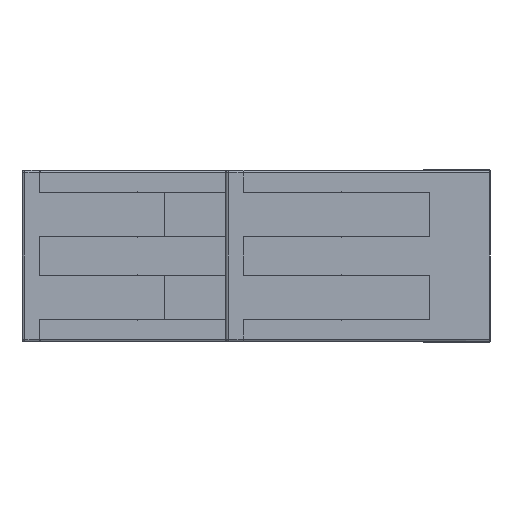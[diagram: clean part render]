
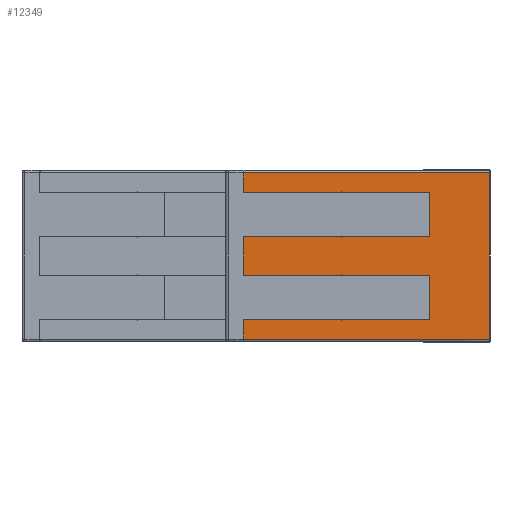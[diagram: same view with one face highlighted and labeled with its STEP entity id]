
A CAD part, left-side view. The second image highlights one B-rep face of the part: STEP entity #12349.
In plain terms, the highlighted planar face has unit normal (-1, 0, 0).
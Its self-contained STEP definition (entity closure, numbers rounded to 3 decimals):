
#31 = VECTOR ( 'NONE', #17913, 1000. ) ;
#99 = LINE ( 'NONE', #16724, #22735 ) ;
#300 = EDGE_CURVE ( 'NONE', #10625, #7509, #23093, .T. ) ;
#559 = AXIS2_PLACEMENT_3D ( 'NONE', #17758, #3569, #16054 ) ;
#961 = CARTESIAN_POINT ( 'NONE',  ( -38.252, -14.462, 4.058 ) ) ;
#1181 = LINE ( 'NONE', #16127, #31 ) ;
#1339 = LINE ( 'NONE', #3938, #6097 ) ;
#1517 = VERTEX_POINT ( 'NONE', #15690 ) ;
#1584 = CARTESIAN_POINT ( 'NONE',  ( -38.252, -14.462, 11.558 ) ) ;
#1687 = CARTESIAN_POINT ( 'NONE',  ( -38.252, -14.462, 11.558 ) ) ;
#1852 = VECTOR ( 'NONE', #10063, 1000. ) ;
#1900 = EDGE_CURVE ( 'NONE', #7598, #22060, #22189, .T. ) ;
#2201 = DIRECTION ( 'NONE',  ( 0., 1., 0. ) ) ;
#2270 = VERTEX_POINT ( 'NONE', #10016 ) ;
#2285 = EDGE_CURVE ( 'NONE', #11264, #22560, #99, .T. ) ;
#2689 = CARTESIAN_POINT ( 'NONE',  ( -38.252, 2.438, 11.558 ) ) ;
#2844 = CARTESIAN_POINT ( 'NONE',  ( -38.252, -19.962, -1.742 ) ) ;
#3198 = ORIENTED_EDGE ( 'NONE', *, *, #1900, .T. ) ;
#3208 = VERTEX_POINT ( 'NONE', #8748 ) ;
#3345 = CARTESIAN_POINT ( 'NONE',  ( -38.252, 2.438, 13.608 ) ) ;
#3435 = LINE ( 'NONE', #23078, #21847 ) ;
#3473 = DIRECTION ( 'NONE',  ( 0., 1., 0. ) ) ;
#3504 = DIRECTION ( 'NONE',  ( 0., 1., 0. ) ) ;
#3508 = CARTESIAN_POINT ( 'NONE',  ( -38.252, -14.462, 0.058 ) ) ;
#3569 = DIRECTION ( 'NONE',  ( 1., 0., 0. ) ) ;
#3638 = LINE ( 'NONE', #6012, #12554 ) ;
#3832 = LINE ( 'NONE', #961, #20597 ) ;
#3887 = FACE_OUTER_BOUND ( 'NONE', #9518, .T. ) ;
#3938 = CARTESIAN_POINT ( 'NONE',  ( -38.252, -6.462, 11.558 ) ) ;
#4136 = LINE ( 'NONE', #10246, #4723 ) ;
#4146 = CARTESIAN_POINT ( 'NONE',  ( -38.252, -14.462, 7.558 ) ) ;
#4241 = CARTESIAN_POINT ( 'NONE',  ( -38.252, -6.462, 0.058 ) ) ;
#4326 = ORIENTED_EDGE ( 'NONE', *, *, #5718, .F. ) ;
#4723 = VECTOR ( 'NONE', #15708, 1000. ) ;
#4763 = CARTESIAN_POINT ( 'NONE',  ( -38.252, 2.438, 13.358 ) ) ;
#5297 = ORIENTED_EDGE ( 'NONE', *, *, #16241, .T. ) ;
#5326 = DIRECTION ( 'NONE',  ( 0., 1., 0. ) ) ;
#5426 = DIRECTION ( 'NONE',  ( 0., 0., -1. ) ) ;
#5610 = ORIENTED_EDGE ( 'NONE', *, *, #15217, .T. ) ;
#5718 = EDGE_CURVE ( 'NONE', #3208, #22973, #1339, .T. ) ;
#5908 = EDGE_CURVE ( 'NONE', #22983, #2270, #3832, .T. ) ;
#6012 = CARTESIAN_POINT ( 'NONE',  ( -38.252, 2.438, 13.608 ) ) ;
#6097 = VECTOR ( 'NONE', #21544, 1000. ) ;
#6289 = CARTESIAN_POINT ( 'NONE',  ( -38.252, -14.462, 0.058 ) ) ;
#6813 = ORIENTED_EDGE ( 'NONE', *, *, #20637, .T. ) ;
#6877 = ORIENTED_EDGE ( 'NONE', *, *, #7948, .T. ) ;
#7193 = VECTOR ( 'NONE', #5426, 1000. ) ;
#7509 = VERTEX_POINT ( 'NONE', #2844 ) ;
#7576 = CARTESIAN_POINT ( 'NONE',  ( -38.252, -14.462, 7.558 ) ) ;
#7598 = VERTEX_POINT ( 'NONE', #22875 ) ;
#7948 = EDGE_CURVE ( 'NONE', #11972, #7598, #15506, .T. ) ;
#7993 = VECTOR ( 'NONE', #13870, 1000. ) ;
#8113 = ORIENTED_EDGE ( 'NONE', *, *, #10783, .F. ) ;
#8241 = CARTESIAN_POINT ( 'NONE',  ( -38.252, -6.462, 4.058 ) ) ;
#8682 = VERTEX_POINT ( 'NONE', #4763 ) ;
#8748 = CARTESIAN_POINT ( 'NONE',  ( -38.252, -6.462, 11.558 ) ) ;
#9299 = CARTESIAN_POINT ( 'NONE',  ( -38.252, -6.462, 0.058 ) ) ;
#9518 = EDGE_LOOP ( 'NONE', ( #20897, #5297, #5610, #4326, #19069, #8113, #6877, #3198, #6813, #10882, #9862, #18458, #13771, #11888, #11377, #16087 ) ) ;
#9862 = ORIENTED_EDGE ( 'NONE', *, *, #15836, .F. ) ;
#10016 = CARTESIAN_POINT ( 'NONE',  ( -38.252, -14.462, 4.058 ) ) ;
#10063 = DIRECTION ( 'NONE',  ( 0., 1., 0. ) ) ;
#10150 = DIRECTION ( 'NONE',  ( 0., 0., -1. ) ) ;
#10213 = CARTESIAN_POINT ( 'NONE',  ( -38.252, -19.962, 13.358 ) ) ;
#10246 = CARTESIAN_POINT ( 'NONE',  ( -38.252, -19.962, -1.742 ) ) ;
#10447 = LINE ( 'NONE', #3345, #19949 ) ;
#10453 = DIRECTION ( 'NONE',  ( 0., 0., -1. ) ) ;
#10625 = VERTEX_POINT ( 'NONE', #10213 ) ;
#10748 = VECTOR ( 'NONE', #14825, 1000. ) ;
#10783 = EDGE_CURVE ( 'NONE', #11972, #11728, #1181, .T. ) ;
#10882 = ORIENTED_EDGE ( 'NONE', *, *, #13977, .F. ) ;
#11154 = VECTOR ( 'NONE', #3473, 1000. ) ;
#11264 = VERTEX_POINT ( 'NONE', #19464 ) ;
#11377 = ORIENTED_EDGE ( 'NONE', *, *, #2285, .T. ) ;
#11728 = VERTEX_POINT ( 'NONE', #1584 ) ;
#11888 = ORIENTED_EDGE ( 'NONE', *, *, #11932, .T. ) ;
#11932 = EDGE_CURVE ( 'NONE', #15521, #11264, #21744, .T. ) ;
#11972 = VERTEX_POINT ( 'NONE', #7576 ) ;
#12146 = CARTESIAN_POINT ( 'NONE',  ( -38.252, 2.438, -1.742 ) ) ;
#12349 = ADVANCED_FACE ( 'NONE', ( #3887 ), #14257, .F. ) ;
#12554 = VECTOR ( 'NONE', #20275, 1000. ) ;
#12558 = CARTESIAN_POINT ( 'NONE',  ( -38.252, -19.962, 13.608 ) ) ;
#12830 = CARTESIAN_POINT ( 'NONE',  ( -38.252, -6.462, 7.558 ) ) ;
#12979 = EDGE_CURVE ( 'NONE', #22560, #7509, #4136, .T. ) ;
#13434 = DIRECTION ( 'NONE',  ( 0., 0., 1. ) ) ;
#13771 = ORIENTED_EDGE ( 'NONE', *, *, #17524, .T. ) ;
#13870 = DIRECTION ( 'NONE',  ( 0., 1., 0. ) ) ;
#13977 = EDGE_CURVE ( 'NONE', #1517, #21653, #16080, .T. ) ;
#14257 = PLANE ( 'NONE',  #559 ) ;
#14825 = DIRECTION ( 'NONE',  ( 0., 1., 0. ) ) ;
#15217 = EDGE_CURVE ( 'NONE', #8682, #22973, #10447, .T. ) ;
#15484 = VECTOR ( 'NONE', #5326, 1000. ) ;
#15506 = LINE ( 'NONE', #4146, #10748 ) ;
#15521 = VERTEX_POINT ( 'NONE', #4241 ) ;
#15597 = DIRECTION ( 'NONE',  ( 0., 1., 0. ) ) ;
#15690 = CARTESIAN_POINT ( 'NONE',  ( -38.252, -6.462, 4.058 ) ) ;
#15708 = DIRECTION ( 'NONE',  ( 0., -1., 0. ) ) ;
#15836 = EDGE_CURVE ( 'NONE', #2270, #1517, #3435, .T. ) ;
#16054 = DIRECTION ( 'NONE',  ( 0., 0., 1. ) ) ;
#16080 = LINE ( 'NONE', #8241, #1852 ) ;
#16087 = ORIENTED_EDGE ( 'NONE', *, *, #12979, .T. ) ;
#16127 = CARTESIAN_POINT ( 'NONE',  ( -38.252, -14.462, 11.558 ) ) ;
#16241 = EDGE_CURVE ( 'NONE', #10625, #8682, #22231, .T. ) ;
#16384 = CARTESIAN_POINT ( 'NONE',  ( -38.252, 2.438, 4.058 ) ) ;
#16724 = CARTESIAN_POINT ( 'NONE',  ( -38.252, 2.438, 13.608 ) ) ;
#17028 = VECTOR ( 'NONE', #2201, 1000. ) ;
#17445 = VECTOR ( 'NONE', #15597, 1000. ) ;
#17524 = EDGE_CURVE ( 'NONE', #22983, #15521, #19676, .T. ) ;
#17758 = CARTESIAN_POINT ( 'NONE',  ( -38.252, 2.438, 13.608 ) ) ;
#17913 = DIRECTION ( 'NONE',  ( 0., 0., 1. ) ) ;
#18458 = ORIENTED_EDGE ( 'NONE', *, *, #5908, .F. ) ;
#19069 = ORIENTED_EDGE ( 'NONE', *, *, #20933, .F. ) ;
#19464 = CARTESIAN_POINT ( 'NONE',  ( -38.252, 2.438, 0.058 ) ) ;
#19676 = LINE ( 'NONE', #3508, #15484 ) ;
#19949 = VECTOR ( 'NONE', #10453, 1000. ) ;
#20102 = LINE ( 'NONE', #1687, #11154 ) ;
#20275 = DIRECTION ( 'NONE',  ( 0., 0., -1. ) ) ;
#20597 = VECTOR ( 'NONE', #13434, 1000. ) ;
#20637 = EDGE_CURVE ( 'NONE', #22060, #21653, #3638, .T. ) ;
#20897 = ORIENTED_EDGE ( 'NONE', *, *, #300, .F. ) ;
#20933 = EDGE_CURVE ( 'NONE', #11728, #3208, #20102, .T. ) ;
#20969 = CARTESIAN_POINT ( 'NONE',  ( -38.252, 2.438, 13.358 ) ) ;
#21417 = CARTESIAN_POINT ( 'NONE',  ( -38.252, 2.438, 7.558 ) ) ;
#21544 = DIRECTION ( 'NONE',  ( 0., 1., 0. ) ) ;
#21653 = VERTEX_POINT ( 'NONE', #16384 ) ;
#21744 = LINE ( 'NONE', #9299, #17028 ) ;
#21847 = VECTOR ( 'NONE', #3504, 1000. ) ;
#22060 = VERTEX_POINT ( 'NONE', #21417 ) ;
#22189 = LINE ( 'NONE', #12830, #17445 ) ;
#22231 = LINE ( 'NONE', #20969, #7993 ) ;
#22560 = VERTEX_POINT ( 'NONE', #12146 ) ;
#22735 = VECTOR ( 'NONE', #10150, 1000. ) ;
#22875 = CARTESIAN_POINT ( 'NONE',  ( -38.252, -6.462, 7.558 ) ) ;
#22973 = VERTEX_POINT ( 'NONE', #2689 ) ;
#22983 = VERTEX_POINT ( 'NONE', #6289 ) ;
#23078 = CARTESIAN_POINT ( 'NONE',  ( -38.252, -14.462, 4.058 ) ) ;
#23093 = LINE ( 'NONE', #12558, #7193 ) ;
